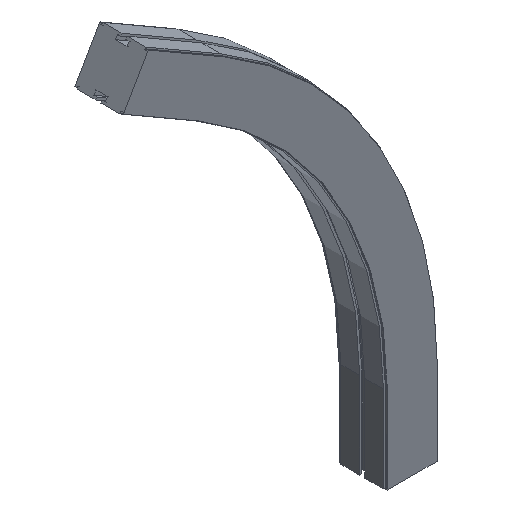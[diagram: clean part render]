
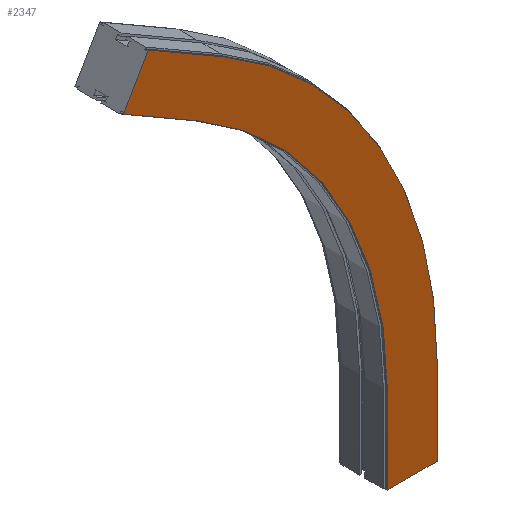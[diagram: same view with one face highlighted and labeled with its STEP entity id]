
A CAD part, isometric view. The second image highlights one B-rep face of the part: STEP entity #2347.
In plain terms, the highlighted planar face has unit normal (0, -1, 0).
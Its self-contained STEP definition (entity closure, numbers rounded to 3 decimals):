
#153 = CARTESIAN_POINT ( 'NONE',  ( -43.15, -42., 0. ) ) ;
#204 = CARTESIAN_POINT ( 'NONE',  ( 43.15, -42., 150. ) ) ;
#209 = DIRECTION ( 'NONE',  ( -1., 0., 0. ) ) ;
#210 = DIRECTION ( 'NONE',  ( 0., 0., -1. ) ) ;
#212 = CARTESIAN_POINT ( 'NONE',  ( -43.15, -42., 150. ) ) ;
#218 = DIRECTION ( 'NONE',  ( 0., 0., -1. ) ) ;
#223 = DIRECTION ( 'NONE',  ( -0.5, 0., -0.866 ) ) ;
#224 = CARTESIAN_POINT ( 'NONE',  ( -501.479, -42., 793.849 ) ) ;
#382 = CARTESIAN_POINT ( 'NONE',  ( -700., -42., 150. ) ) ;
#383 = DIRECTION ( 'NONE',  ( 0., -1., 0. ) ) ;
#384 = DIRECTION ( 'NONE',  ( 0., 0., -1. ) ) ;
#392 = CARTESIAN_POINT ( 'NONE',  ( -700., -42., 150. ) ) ;
#393 = DIRECTION ( 'NONE',  ( 0., -1., 0. ) ) ;
#394 = DIRECTION ( 'NONE',  ( 0., 0., -1. ) ) ;
#634 = CARTESIAN_POINT ( 'NONE',  ( -43.15, -42., 150. ) ) ;
#683 = CARTESIAN_POINT ( 'NONE',  ( -458.329, -42., 868.587 ) ) ;
#687 = CARTESIAN_POINT ( 'NONE',  ( -501.479, -42., 793.849 ) ) ;
#690 = CARTESIAN_POINT ( 'NONE',  ( -328.425, -42., 793.587 ) ) ;
#693 = CARTESIAN_POINT ( 'NONE',  ( -371.575, -42., 718.849 ) ) ;
#827 = CARTESIAN_POINT ( 'NONE',  ( -371.575, -42., 718.849 ) ) ;
#829 = DIRECTION ( 'NONE',  ( -0.866, 0., 0.5 ) ) ;
#885 = CARTESIAN_POINT ( 'NONE',  ( -328.425, -42., 793.587 ) ) ;
#886 = DIRECTION ( 'NONE',  ( -0.866, 0., 0.5 ) ) ;
#1028 = CARTESIAN_POINT ( 'NONE',  ( 43.15, -42., 150. ) ) ;
#1037 = CARTESIAN_POINT ( 'NONE',  ( 43.15, -42., 0. ) ) ;
#1052 = CARTESIAN_POINT ( 'NONE',  ( -43.15, -42., 0. ) ) ;
#1155 = EDGE_CURVE ( 'NONE', #2720, #2089, #2001, .T. ) ;
#1156 = EDGE_CURVE ( 'NONE', #2087, #2089, #2005, .T. ) ;
#1157 = EDGE_CURVE ( 'NONE', #2759, #2763, #1997, .T. ) ;
#1195 = EDGE_CURVE ( 'NONE', #2072, #2087, #1929, .T. ) ;
#1225 = AXIS2_PLACEMENT_3D ( 'NONE', #392, #393, #394 ) ;
#1227 = AXIS2_PLACEMENT_3D ( 'NONE', #382, #383, #384 ) ;
#1335 = AXIS2_PLACEMENT_3D ( 'NONE', #2403, #2402, #2958 ) ;
#1451 = CIRCLE ( 'NONE', #1225, 743.15 ) ;
#1456 = CIRCLE ( 'NONE', #1227, 656.85 ) ;
#1569 = VECTOR ( 'NONE', #886, 1000. ) ;
#1572 = LINE ( 'NONE', #885, #1569 ) ;
#1628 = VECTOR ( 'NONE', #829, 1000. ) ;
#1631 = LINE ( 'NONE', #827, #1628 ) ;
#1749 = FACE_OUTER_BOUND ( 'NONE', #2928, .T. ) ;
#1924 = VECTOR ( 'NONE', #218, 1000. ) ;
#1929 = LINE ( 'NONE', #204, #1924 ) ;
#1994 = VECTOR ( 'NONE', #223, 1000. ) ;
#1996 = VECTOR ( 'NONE', #209, 1000. ) ;
#1997 = LINE ( 'NONE', #224, #1994 ) ;
#1998 = VECTOR ( 'NONE', #210, 1000. ) ;
#2001 = LINE ( 'NONE', #212, #1998 ) ;
#2005 = LINE ( 'NONE', #153, #1996 ) ;
#2072 = VERTEX_POINT ( 'NONE', #1028 ) ;
#2087 = VERTEX_POINT ( 'NONE', #1037 ) ;
#2089 = VERTEX_POINT ( 'NONE', #1052 ) ;
#2347 = ADVANCED_FACE ( 'NONE', ( #1749 ), #2397, .T. ) ;
#2397 = PLANE ( 'NONE',  #1335 ) ;
#2402 = DIRECTION ( 'NONE',  ( 0., -1., 0. ) ) ;
#2403 = CARTESIAN_POINT ( 'NONE',  ( -43.15, -42., 150. ) ) ;
#2678 = ORIENTED_EDGE ( 'NONE', *, *, #1156, .F. ) ;
#2679 = ORIENTED_EDGE ( 'NONE', *, *, #1195, .F. ) ;
#2680 = ORIENTED_EDGE ( 'NONE', *, *, #3118, .T. ) ;
#2681 = ORIENTED_EDGE ( 'NONE', *, *, #3042, .T. ) ;
#2682 = ORIENTED_EDGE ( 'NONE', *, *, #1157, .T. ) ;
#2683 = ORIENTED_EDGE ( 'NONE', *, *, #3013, .F. ) ;
#2684 = ORIENTED_EDGE ( 'NONE', *, *, #3115, .F. ) ;
#2685 = ORIENTED_EDGE ( 'NONE', *, *, #1155, .T. ) ;
#2720 = VERTEX_POINT ( 'NONE', #634 ) ;
#2759 = VERTEX_POINT ( 'NONE', #683 ) ;
#2763 = VERTEX_POINT ( 'NONE', #687 ) ;
#2766 = VERTEX_POINT ( 'NONE', #690 ) ;
#2769 = VERTEX_POINT ( 'NONE', #693 ) ;
#2928 = EDGE_LOOP ( 'NONE', ( #2678, #2679, #2680, #2681, #2682, #2683, #2684, #2685 ) ) ;
#2958 = DIRECTION ( 'NONE',  ( 1., 0., 0. ) ) ;
#3013 = EDGE_CURVE ( 'NONE', #2769, #2763, #1631, .T. ) ;
#3042 = EDGE_CURVE ( 'Edge42', #2766, #2759, #1572, .T. ) ;
#3115 = EDGE_CURVE ( 'NONE', #2720, #2769, #1456, .T. ) ;
#3118 = EDGE_CURVE ( 'Edge18', #2072, #2766, #1451, .T. ) ;
